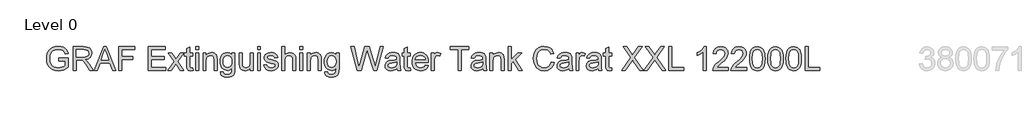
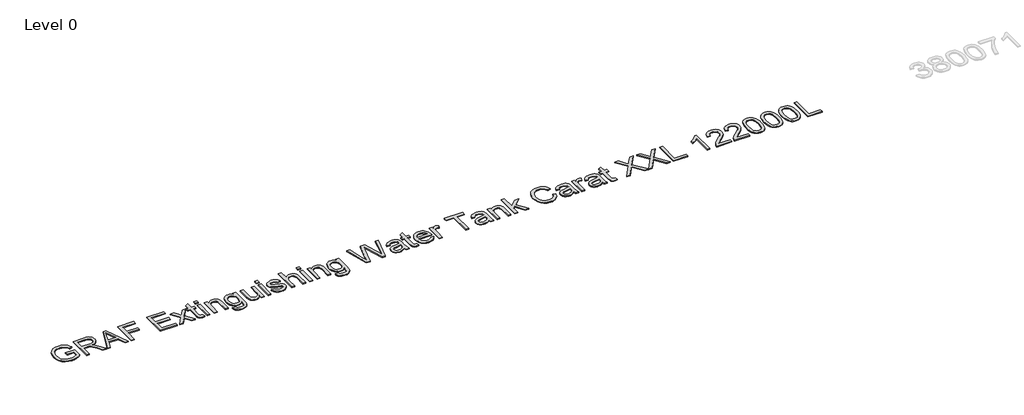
# One storey, part 18 of 37: 1 proxy.
"""IFC4 building model written with IfcOpenShell, lengths in millimetres."""

from ifc_helpers import new_model, si_unit, origin, origin_with_axes, place, context, project, spatial, polyline, outline, extrude, element, save

model = new_model("IFC4")

# Units and contexts
model_context = context("Model", 3, world=origin())
ifc_project = project(units=[si_unit("LENGTHUNIT", "METRE", prefix="MILLI")], contexts=[model_context])

# Site, building, storey
site = spatial("IfcSite", under=ifc_project)
building = spatial("IfcBuilding", under=site)
storey = spatial("IfcBuildingStorey", under=building, Name="Level 0", Elevation=0.0)

# Proxy
placement = place(None, origin())
element("IfcBuildingElementProxy", 1, Name="300mm Arial", ObjectType="300mm Arial", at=placement, inside=storey, context=model_context, shape_type="SweptSolid", body=[
    extrude(outline(polyline([(16759.0059613, -41583.2545597), (16759.0059613, -41545.5834434), (16881.4370893, -41545.5834434), (16881.4370893, -41658.2289103), (16851.6846329, -41678.9222726), (16820.9940775, -41693.7663111), (16789.4389993, -41702.7058436), (16757.0929749, -41705.6856877), (16714.8325307, -41700.949207), (16676.6371825, -41686.739765), (16644.9073605, -41663.5540022), (16622.0434945, -41631.8885595), (16608.2203285, -41593.9047435), (16603.6126065, -41551.7638609), (16608.2019344, -41509.3194757), (16621.9699181, -41469.8365406), (16644.3463404, -41436.717964), (16674.7609844, -41413.3666543), (16711.8067013, -41399.5158972), (16754.0763425, -41394.8989782), (16785.1071888, -41397.5753197), (16813.0110382, -41405.6043443), (16836.5095006, -41418.4066377), (16854.3241862, -41435.4027859), (16867.5035587, -41457.4113262), (16877.0960817, -41485.2507962), (16842.3680214, -41495.0364573), (16834.6149083, -41475.1800266), (16825.1879322, -41460.1980323), (16812.7167326, -41448.9040551), (16795.830949, -41440.1116754), (16775.6986068, -41434.4554897), (16753.4877313, -41432.5700945), (16727.4876713, -41434.6026425), (16705.2584018, -41440.7002866), (16686.8826961, -41450.0996716), (16672.4433278, -41462.0374423), (16653.0559467, -41491.0633317), (16644.2267788, -41519.50061), (16641.2837228, -41550.2187566), (16644.824587, -41586.2436009), (16655.4471796, -41615.8856927), (16672.8296039, -41638.9334997), (16696.6499631, -41655.1754898), (16724.5262213, -41664.804801), (16754.0763425, -41668.0145714), (16780.168373, -41665.5957473), (16805.6166101, -41658.3392749), (16827.7171209, -41648.3420817), (16843.765973, -41637.701095), (16843.765973, -41583.2545597), (16759.0059613, -41583.2545597)])), origin_with_axes(), (0.0, 0.0, 1.0), 10.0),
    extrude(outline(polyline([(16942.6526533, -41700.9767982), (16942.6526533, -41399.6078677), (17072.5149976, -41399.6078677), (17107.4178018, -41401.6404158), (17132.8108566, -41407.7380598), (17151.3705032, -41418.9952489), (17165.7730833, -41436.5064318), (17175.0161185, -41458.2206666), (17178.0971302, -41482.087011), (17172.9927675, -41511.7750881), (17157.6796794, -41536.3863935), (17146.0799003, -41546.4157764), (17131.6980135, -41554.4310054), (17094.5879173, -41564.4190016), (17115.9986494, -41580.532233), (17146.532855, -41619.3069952), (17196.7855355, -41700.9767982), (17153.0075781, -41700.9767982), (17113.7913574, -41638.5104354), (17085.4644438, -41597.1604991), (17065.5620278, -41577.6259652), (17047.6461747, -41570.4522663), (17025.7939842, -41569.1278911), (16980.3237696, -41569.1278911), (16980.3237696, -41700.9767982), (16942.6526533, -41700.9767982)]), holes=[polyline([(16980.3237696, -41531.4567748), (17064.6423229, -41531.4567748), (17088.8581552, -41530.1232026), (17107.6477281, -41526.1224859), (17121.7927908, -41519.1879103), (17132.0750926, -41509.0527613), (17138.3382835, -41496.7930938), (17140.4260139, -41483.4849626), (17136.4436913, -41465.109257), (17124.4967235, -41450.3020067), (17103.941317, -41440.5347397), (17074.1336783, -41437.278984), (16980.3237696, -41437.278984), (16980.3237696, -41531.4567748)])]), origin_with_axes(), (0.0, 0.0, 1.0), 10.0),
    extrude(outline(polyline([(17208.9256414, -41700.9767982), (17329.2230538, -41399.6078677), (17361.3023638, -41399.6078677), (17481.5997762, -41700.9767982), (17441.7949443, -41700.9767982), (17407.2876132, -41606.7990074), (17283.164228, -41606.7990074), (17248.7304732, -41700.9767982), (17208.9256414, -41700.9767982)]), holes=[polyline([(17296.996591, -41569.1278911), (17393.5288265, -41569.1278911), (17366.3791353, -41495.0364573), (17345.2627088, -41437.278984), (17326.500727, -41488.5617342), (17296.996591, -41569.1278911)])]), origin_with_axes(), (0.0, 0.0, 1.0), 10.0),
    extrude(outline(polyline([(17521.8460665, -41700.9767982), (17521.8460665, -41399.6078677), (17724.3283166, -41399.6078677), (17724.3283166, -41437.278984), (17559.5171828, -41437.278984), (17559.5171828, -41526.7478853), (17700.7838689, -41526.7478853), (17700.7838689, -41564.4190016), (17559.5171828, -41564.4190016), (17559.5171828, -41700.9767982), (17521.8460665, -41700.9767982)])), origin_with_axes(), (0.0, 0.0, 1.0), 10.0),
    extrude(outline(polyline([(17893.84834, -41700.9767982), (17893.84834, -41399.6078677), (18110.4572587, -41399.6078677), (18110.4572587, -41437.278984), (17931.5194563, -41437.278984), (17931.5194563, -41526.7478853), (18101.0394797, -41526.7478853), (18101.0394797, -41564.4190016), (17931.5194563, -41564.4190016), (17931.5194563, -41663.3056819), (18115.1661483, -41663.3056819), (18115.1661483, -41700.9767982), (17893.84834, -41700.9767982)])), origin_with_axes(), (0.0, 0.0, 1.0), 10.0),
    extrude(outline(polyline([(18143.4194855, -41700.9767982), (18223.9120661, -41589.7292828), (18148.1283751, -41479.6589899), (18193.4514369, -41479.6589899), (18230.0189072, -41532.6339972), (18247.0886318, -41557.6499729), (18261.877488, -41537.1957339), (18303.5217298, -41479.6589899), (18348.8447916, -41479.6589899), (18269.2351279, -41589.7292828), (18345.9017357, -41700.9767982), (18300.5786739, -41700.9767982), (18254.4462717, -41634.0958515), (18245.9849858, -41621.8821692), (18188.7425473, -41700.9767982), (18143.4194855, -41700.9767982)])), origin_with_axes(), (0.0, 0.0, 1.0), 10.0),
    extrude(outline(polyline([(18458.9150846, -41669.5596758), (18463.6239741, -41702.0804442), (18435.4442133, -41705.6856877), (18417.3628132, -41704.1221892), (18403.8799381, -41699.4316938), (18394.3517944, -41692.2028126), (18388.1345887, -41683.0241568), (18384.7132861, -41667.2604133), (18383.572852, -41640.276269), (18383.572852, -41517.3301062), (18355.3195147, -41517.3301062), (18355.3195147, -41479.6589899), (18383.572852, -41479.6589899), (18383.572852, -41425.8746422), (18421.2439683, -41403.7281461), (18421.2439683, -41479.6589899), (18458.9150846, -41479.6589899), (18458.9150846, -41517.3301062), (18421.2439683, -41517.3301062), (18421.2439683, -41639.172623), (18423.230531, -41658.5967923), (18429.668466, -41665.4761856), (18442.5075476, -41668.0145714), (18458.9150846, -41669.5596758)])), origin_with_axes(), (0.0, 0.0, 1.0), 10.0),
    extrude(outline(polyline([(18496.5862009, -41437.278984), (18496.5862009, -41399.6078677), (18534.2573172, -41399.6078677), (18534.2573172, -41437.278984), (18496.5862009, -41437.278984)])), origin_with_axes(), (0.0, 0.0, 1.0), 10.0),
    extrude(outline(polyline([(18496.5862009, -41700.9767982), (18496.5862009, -41479.6589899), (18534.2573172, -41479.6589899), (18534.2573172, -41700.9767982), (18496.5862009, -41700.9767982)])), origin_with_axes(), (0.0, 0.0, 1.0), 10.0),
    extrude(outline(polyline([(18590.7639916, -41700.9767982), (18590.7639916, -41479.6589899), (18628.435108, -41479.6589899), (18628.435108, -41510.5610775), (18641.5225099, -41494.981275), (18657.2402682, -41483.8528446), (18675.5883827, -41477.1757864), (18696.5668535, -41474.9501003), (18715.1356972, -41476.7435251), (18732.1410424, -41482.1237992), (18746.3228933, -41490.4195382), (18756.4212541, -41500.9593574), (18767.7152313, -41528.6608716), (18769.7017941, -41565.0811892), (18769.7017941, -41700.9767982), (18732.0306778, -41700.9767982), (18732.0306778, -41570.1579607), (18727.6896703, -41536.8278519), (18721.6839967, -41526.9042351), (18712.3489911, -41519.2063044), (18700.3836292, -41514.2674886), (18686.4868868, -41512.6212166), (18664.4231641, -41516.3184307), (18645.6151971, -41527.4100729), (18638.0989081, -41536.4645685), (18632.7301302, -41548.8391991), (18628.435108, -41583.5488653), (18628.435108, -41700.9767982), (18590.7639916, -41700.9767982)])), origin_with_axes(), (0.0, 0.0, 1.0), 10.0),
    extrude(outline(polyline([(18812.0817999, -41719.8123563), (18849.7529163, -41724.5212459), (18853.9099828, -41736.2934697), (18861.9665985, -41744.3868736), (18877.8039184, -41750.6776557), (18898.5340688, -41752.7745831), (18920.6437767, -41750.4017442), (18937.0881019, -41743.2832276), (18948.4924438, -41731.8788858), (18955.4822017, -41716.6485712), (18958.0573756, -41672.7234609), (18945.5217966, -41685.084296), (18931.5330838, -41693.9134639), (18916.091237, -41699.2109646), (18899.1962564, -41700.9767982), (18878.5419816, -41698.9212575), (18860.3571148, -41692.7546356), (18844.6416558, -41682.4769323), (18831.3956047, -41668.0881478), (18820.8856759, -41650.8252852), (18813.378584, -41631.9253477), (18808.8743288, -41611.3883353), (18807.3729104, -41589.214248), (18810.067646, -41558.7996041), (18818.1518529, -41530.8313754), (18831.3404224, -41507.1305779), (18849.3482461, -41489.5182274), (18871.5591215, -41478.5921321), (18897.3568464, -41474.9501003), (18914.9737955, -41477.0102395), (18930.9628667, -41483.190657), (18945.3240601, -41493.4913529), (18958.0573756, -41507.9123271), (18958.0573756, -41479.6589899), (18995.7284919, -41479.6589899), (18995.7284919, -41670.7368982), (18993.153318, -41714.8551464), (18985.4277961, -41743.908627), (18972.1196649, -41763.1764465), (18952.7966631, -41777.9377116), (18927.881855, -41787.3187024), (18897.7983048, -41790.4456994), (18862.7483477, -41786.0403125), (18835.148001, -41772.8241518), (18824.7530354, -41762.9028343), (18817.44368, -41750.7604292), (18813.2199349, -41736.3969365), (18812.0817999, -41719.8123563)]), holes=[polyline([(18845.0440267, -41586.6390741), (18849.0631375, -41621.1923905), (18861.1204699, -41644.9483703), (18879.2478552, -41658.716354), (18901.4771248, -41663.3056819), (18923.5408474, -41658.7439451), (18941.7602032, -41645.0587349), (18953.9830825, -41621.6062577), (18958.0573756, -41587.7427201), (18953.8635209, -41555.0839959), (18941.2819567, -41531.5671394), (18922.7958864, -41517.3576973), (18900.8885136, -41512.6212166), (18879.3766139, -41517.2841209), (18861.3411991, -41531.2728338), (18849.1183198, -41554.4402024), (18845.0440267, -41586.6390741)])]), origin_with_axes(), (0.0, 0.0, 1.0), 10.0),
    extrude(outline(polyline([(19193.5018525, -41700.9767982), (19193.5018525, -41662.9377999), (19179.8718246, -41681.6400008), (19163.9977165, -41694.9987158), (19145.8795283, -41703.0139447), (19125.5172598, -41705.6856877), (19107.1691453, -41703.8094895), (19090.0902237, -41698.180895), (19075.76122, -41689.7196091), (19065.6628592, -41679.3453369), (19054.4424584, -41651.6070344), (19052.2351664, -41616.5846685), (19052.2351664, -41479.6589899), (19089.9062827, -41479.6589899), (19089.9062827, -41598.8527563), (19092.1871511, -41637.2596366), (19097.6777899, -41650.0711271), (19107.0863719, -41659.8108029), (19119.7874978, -41665.9636293), (19135.1557681, -41668.0145714), (19151.4069552, -41665.917644), (19166.6096787, -41659.6268619), (19179.1452577, -41649.7216392), (19187.3950114, -41636.78139), (19191.9751423, -41619.0586749), (19193.5018525, -41594.8060544), (19193.5018525, -41479.6589899), (19231.1729689, -41479.6589899), (19231.1729689, -41700.9767982), (19193.5018525, -41700.9767982)])), origin_with_axes(), (0.0, 0.0, 1.0), 10.0),
    extrude(outline(polyline([(19282.9707538, -41437.278984), (19282.9707538, -41399.6078677), (19320.6418701, -41399.6078677), (19320.6418701, -41437.278984), (19282.9707538, -41437.278984)])), origin_with_axes(), (0.0, 0.0, 1.0), 10.0),
    extrude(outline(polyline([(19282.9707538, -41700.9767982), (19282.9707538, -41479.6589899), (19320.6418701, -41479.6589899), (19320.6418701, -41700.9767982), (19282.9707538, -41700.9767982)])), origin_with_axes(), (0.0, 0.0, 1.0), 10.0),
    extrude(outline(polyline([(19363.0218759, -41635.0523446), (19400.6929922, -41630.3434551), (19406.6342865, -41646.4566865), (19418.1305988, -41658.3024867), (19435.2555057, -41665.5865502), (19458.0825835, -41668.0145714), (19480.6337498, -41665.7888853), (19496.4894638, -41659.1118271), (19505.8704547, -41649.4365307), (19508.9974516, -41638.2161298), (19505.8520606, -41628.6144097), (19496.4158874, -41621.293558), (19457.6411251, -41610.5514038), (19400.9137214, -41592.1205158), (19386.5571266, -41582.8590866), (19376.1552632, -41570.5994191), (19369.8368899, -41556.1232626), (19367.7307655, -41540.2123663), (19369.4230226, -41525.6166481), (19374.4997942, -41512.1429701), (19382.5012276, -41500.324761), (19392.9674703, -41490.6954497), (19416.9165882, -41479.5486253), (19449.326992, -41474.9501003), (19473.846327, -41476.7987074), (19495.1650886, -41482.3445284), (19512.3083896, -41491.0449376), (19524.3013426, -41502.357309), (19532.2475937, -41517.118574), (19537.2507888, -41536.1656643), (19499.5796725, -41540.8745539), (19494.8247977, -41529.0195566), (19485.4162157, -41520.0892211), (19471.261956, -41514.4882178), (19452.270048, -41512.6212166), (19430.6385866, -41514.4054443), (19416.2176124, -41519.7581274), (19408.1058144, -41527.4836493), (19405.4018818, -41536.3863935), (19409.8900421, -41547.349277), (19423.9431343, -41555.6634101), (19456.3903263, -41563.6832376), (19511.6829902, -41581.4151497), (19526.2879054, -41589.8948297), (19537.3611534, -41601.5015067), (19544.3417143, -41616.2719688), (19546.6685679, -41634.2430043), (19543.9370441, -41652.821045), (19535.7424727, -41670.2954398), (19522.3975533, -41685.2958281), (19504.2149857, -41696.4518496), (19482.2524306, -41703.3772282), (19457.5675487, -41705.6856877), (19419.5837327, -41701.2343156), (19391.8638243, -41687.8801992), (19373.35936, -41665.7704912), (19363.0218759, -41635.0523446)])), origin_with_axes(), (0.0, 0.0, 1.0), 10.0),
    extrude(outline(polyline([(19589.0485738, -41700.9767982), (19589.0485738, -41399.6078677), (19626.7196901, -41399.6078677), (19626.7196901, -41510.4139247), (19640.5566516, -41494.8985015), (19656.0950674, -41483.8160564), (19673.3349374, -41477.1665894), (19692.2762616, -41474.9501003), (19715.029763, -41477.3689245), (19734.5826911, -41484.6253968), (19749.9785526, -41496.1493003), (19760.2608543, -41511.3704179), (19766.0549957, -41532.2845093), (19767.9863762, -41560.8873344), (19767.9863762, -41700.9767982), (19730.3152599, -41700.9767982), (19730.3152599, -41564.7868836), (19727.3170216, -41541.2056477), (19718.3223069, -41525.0556281), (19703.8277563, -41515.7298195), (19684.3300105, -41512.6212166), (19668.4099172, -41514.718144), (19653.4647111, -41521.0089261), (19641.085482, -41530.8865577), (19632.8633194, -41543.7440334), (19628.2555974, -41560.8321521), (19626.7196901, -41583.4017125), (19626.7196901, -41700.9767982), (19589.0485738, -41700.9767982)])), origin_with_axes(), (0.0, 0.0, 1.0), 10.0),
    extrude(outline(polyline([(19819.7841611, -41437.278984), (19819.7841611, -41399.6078677), (19857.4552774, -41399.6078677), (19857.4552774, -41437.278984), (19819.7841611, -41437.278984)])), origin_with_axes(), (0.0, 0.0, 1.0), 10.0),
    extrude(outline(polyline([(19819.7841611, -41700.9767982), (19819.7841611, -41479.6589899), (19857.4552774, -41479.6589899), (19857.4552774, -41700.9767982), (19819.7841611, -41700.9767982)])), origin_with_axes(), (0.0, 0.0, 1.0), 10.0),
    extrude(outline(polyline([(19913.9619519, -41700.9767982), (19913.9619519, -41479.6589899), (19951.6330682, -41479.6589899), (19951.6330682, -41510.5610775), (19964.7204702, -41494.981275), (19980.4382284, -41483.8528446), (19998.7863429, -41477.1757864), (20019.7648137, -41474.9501003), (20038.3336574, -41476.7435251), (20055.3390026, -41482.1237992), (20069.5208536, -41490.4195382), (20079.6192143, -41500.9593574), (20090.9131916, -41528.6608716), (20092.8997544, -41565.0811892), (20092.8997544, -41700.9767982), (20055.228638, -41700.9767982), (20055.228638, -41570.1579607), (20050.8876305, -41536.8278519), (20044.8819569, -41526.9042351), (20035.5469513, -41519.2063044), (20023.5815894, -41514.2674886), (20009.684847, -41512.6212166), (19987.6211244, -41516.3184307), (19968.8131574, -41527.4100729), (19961.2968684, -41536.4645685), (19955.9280905, -41548.8391991), (19951.6330682, -41583.5488653), (19951.6330682, -41700.9767982), (19913.9619519, -41700.9767982)])), origin_with_axes(), (0.0, 0.0, 1.0), 10.0),
    extrude(outline(polyline([(20135.2797602, -41719.8123563), (20172.9508765, -41724.5212459), (20177.1079431, -41736.2934697), (20185.1645587, -41744.3868736), (20201.0018786, -41750.6776557), (20221.7320291, -41752.7745831), (20243.841737, -41750.4017442), (20260.2860622, -41743.2832276), (20271.690404, -41731.8788858), (20278.6801619, -41716.6485712), (20281.2553359, -41672.7234609), (20268.7197569, -41685.084296), (20254.731044, -41693.9134639), (20239.2891973, -41699.2109646), (20222.3942167, -41700.9767982), (20201.7399419, -41698.9212575), (20183.555075, -41692.7546356), (20167.839616, -41682.4769323), (20154.5935649, -41668.0881478), (20144.0836362, -41650.8252852), (20136.5765442, -41631.9253477), (20132.0722891, -41611.3883353), (20130.5708707, -41589.214248), (20133.2656063, -41558.7996041), (20141.3498131, -41530.8313754), (20154.5383826, -41507.1305779), (20172.5462063, -41489.5182274), (20194.7570818, -41478.5921321), (20220.5548067, -41474.9501003), (20238.1717557, -41477.0102395), (20254.1608269, -41483.190657), (20268.5220203, -41493.4913529), (20281.2553359, -41507.9123271), (20281.2553359, -41479.6589899), (20318.9264522, -41479.6589899), (20318.9264522, -41670.7368982), (20316.3512782, -41714.8551464), (20308.6257563, -41743.908627), (20295.3176252, -41763.1764465), (20275.9946234, -41777.9377116), (20251.0798152, -41787.3187024), (20220.9962651, -41790.4456994), (20185.946308, -41786.0403125), (20158.3459613, -41772.8241518), (20147.9509957, -41762.9028343), (20140.6416403, -41750.7604292), (20136.4178951, -41736.3969365), (20135.2797602, -41719.8123563)]), holes=[polyline([(20168.241987, -41586.6390741), (20172.2610978, -41621.1923905), (20184.3184302, -41644.9483703), (20202.4458155, -41658.716354), (20224.675085, -41663.3056819), (20246.7388077, -41658.7439451), (20264.9581635, -41645.0587349), (20277.1810428, -41621.6062577), (20281.2553359, -41587.7427201), (20277.0614811, -41555.0839959), (20264.4799169, -41531.5671394), (20245.9938466, -41517.3576973), (20224.0864738, -41512.6212166), (20202.5745742, -41517.2841209), (20184.5391594, -41531.2728338), (20172.3162801, -41554.4402024), (20168.241987, -41586.6390741)])]), origin_with_axes(), (0.0, 0.0, 1.0), 10.0),
    extrude(outline(polyline([(20551.7957551, -41700.9767982), (20469.6109174, -41399.6078677), (20508.4592561, -41399.6078677), (20556.1367627, -41597.6755339), (20570.8520425, -41658.8175215), (20586.5973919, -41604.7388682), (20646.3414279, -41399.6078677), (20702.3330676, -41399.6078677), (20745.743143, -41548.3057702), (20764.3395779, -41603.4880695), (20778.0431822, -41658.8175215), (20792.3170036, -41599.4413675), (20840.4359686, -41399.6078677), (20879.2843072, -41399.6078677), (20797.0258931, -41700.9767982), (20756.7796029, -41700.9767982), (20684.527579, -41468.4753772), (20674.4476123, -41436.0281853), (20663.1168469, -41475.0972531), (20597.2659697, -41700.9767982), (20551.7957551, -41700.9767982)])), origin_with_axes(), (0.0, 0.0, 1.0), 10.0),
    extrude(outline(polyline([(21053.5132202, -41672.7234609), (21035.5145935, -41688.1561106), (21016.982538, -41698.2544714), (20997.4939893, -41703.8278836), (20976.6258832, -41705.6856877), (20945.1443814, -41701.2159215), (20921.9218305, -41687.8066228), (20907.6020238, -41667.4443543), (20902.8287549, -41642.115679), (20904.6313767, -41626.4990883), (20910.039242, -41612.3172373), (20918.3809663, -41600.1771315), (20928.9851648, -41590.685776), (20955.3623038, -41578.324941), (20987.9566486, -41572.6595583), (21026.4738935, -41566.6998699), (21053.292491, -41559.710112), (21053.5132202, -41551.3224025), (21050.9196521, -41534.5101954), (21043.1389479, -41523.5105237), (21025.7381295, -41515.3435434), (21001.494706, -41512.6212166), (20979.0539043, -41514.4330355), (20963.3821313, -41519.868492), (20952.6951594, -41529.9208675), (20945.2087608, -41545.5834434), (20907.5376445, -41540.8745539), (20914.0767469, -41520.2731621), (20923.8348169, -41504.0863544), (20937.7223622, -41491.7071252), (20956.6498908, -41482.5284694), (20979.7988654, -41476.8446926), (21006.3507484, -41474.9501003), (21031.8173795, -41476.6239634), (21052.004904, -41481.6455527), (21067.2260215, -41489.1963306), (21077.7934318, -41498.4577598), (21084.8015838, -41509.9080869), (21089.3449265, -41524.0255585), (21091.1843365, -41556.9877853), (21091.1843365, -41603.8559515), (21093.0973228, -41669.3021584), (21100.6021155, -41700.9767982), (21062.9309992, -41700.9767982), (21053.5132202, -41672.7234609)]), holes=[polyline([(21053.5132202, -41597.3812283), (20992.7391146, -41608.932723), (20960.3287108, -41615.0395641), (20945.6502192, -41624.972378), (20940.4998712, -41639.4669286), (20943.3049715, -41650.6689353), (20951.7202721, -41659.8475911), (20965.5618322, -41665.9728263), (20984.6457107, -41668.0145714), (21004.8792204, -41665.7612942), (21022.7582854, -41659.0014625), (21037.252836, -41649.0410575), (21047.3328026, -41637.1860602), (21051.8025689, -41624.972378), (21053.292491, -41608.0498062), (21053.5132202, -41597.3812283)])]), origin_with_axes(), (0.0, 0.0, 1.0), 10.0),
    extrude(outline(polyline([(21223.0332435, -41669.5596758), (21227.7421331, -41702.0804442), (21199.5623722, -41705.6856877), (21181.4809722, -41704.1221892), (21167.9980971, -41699.4316938), (21158.4699534, -41692.2028126), (21152.2527477, -41683.0241568), (21148.8314451, -41667.2604133), (21147.6910109, -41640.276269), (21147.6910109, -41517.3301062), (21119.4376737, -41517.3301062), (21119.4376737, -41479.6589899), (21147.6910109, -41479.6589899), (21147.6910109, -41425.8746422), (21185.3621272, -41403.7281461), (21185.3621272, -41479.6589899), (21223.0332435, -41479.6589899), (21223.0332435, -41517.3301062), (21185.3621272, -41517.3301062), (21185.3621272, -41639.172623), (21187.34869, -41658.5967923), (21193.7866249, -41665.4761856), (21206.6257066, -41668.0145714), (21223.0332435, -41669.5596758)])), origin_with_axes(), (0.0, 0.0, 1.0), 10.0),
    extrude(outline(polyline([(21415.6562562, -41635.0523446), (21452.5916085, -41639.7612342), (21439.2834774, -41667.5915071), (21418.0474892, -41688.3952339), (21389.3618906, -41701.3630743), (21353.7049282, -41705.6856877), (21330.330626, -41703.8209859), (21309.5039065, -41698.2268803), (21291.2247699, -41688.9033709), (21275.493216, -41675.8504579), (21262.8426739, -41659.4314246), (21253.8065724, -41640.0095545), (21248.3849115, -41617.5848477), (21246.5776912, -41592.157304), (21248.4033056, -41565.8675369), (21253.8801488, -41542.6955698), (21263.0082208, -41522.6414025), (21275.7875216, -41505.7050351), (21291.4776887, -41492.2497512), (21309.3383596, -41482.638834), (21329.3695342, -41476.8722838), (21351.5712127, -41474.9501003), (21373.0578204, -41476.8676852), (21392.4888876, -41482.6204399), (21409.8644141, -41492.2083644), (21425.1843999, -41505.6314587), (21437.6900885, -41522.5310379), (21446.6227232, -41542.548417), (21451.982304, -41565.6835959), (21453.7688309, -41591.9365748), (21453.5481017, -41602.0901179), (21284.2488075, -41602.0901179), (21290.7695159, -41630.2882728), (21305.9170571, -41651.0184232), (21327.7784446, -41663.7655344), (21354.4406922, -41668.0145714), (21374.490261, -41666.0464027), (21391.3760445, -41660.1418967), (21405.098043, -41649.9331713), (21415.6562562, -41635.0523446)]), holes=[polyline([(21284.2488075, -41564.4190016), (21416.0977146, -41564.4190016), (21411.002549, -41544.5165856), (21401.0145528, -41530.2795524), (21379.0519977, -41517.0358006), (21351.4240599, -41512.6212166), (21326.0310051, -41516.1436868), (21305.0341403, -41526.7110971), (21290.4384221, -41543.1830134), (21284.2488075, -41564.4190016)])]), origin_with_axes(), (0.0, 0.0, 1.0), 10.0),
    extrude(outline(polyline([(21491.4399472, -41700.9767982), (21491.4399472, -41479.6589899), (21524.402174, -41479.6589899), (21524.402174, -41512.4004875), (21536.579068, -41493.4177765), (21547.7994689, -41482.2341638), (21559.0566579, -41476.7711162), (21571.3439166, -41474.9501003), (21590.1058983, -41477.8563681), (21609.1621857, -41486.5751714), (21596.5806214, -41520.3467385), (21583.3368696, -41514.5525971), (21570.0931178, -41512.6212166), (21558.8451258, -41514.4790207), (21548.7927503, -41520.052433), (21540.6717552, -41528.918389), (21535.2179046, -41540.6538247), (21530.6377738, -41561.6966748), (21529.1110635, -41584.6525113), (21529.1110635, -41700.9767982), (21491.4399472, -41700.9767982)])), origin_with_axes(), (0.0, 0.0, 1.0), 10.0),
    extrude(outline(polyline([(21830.479994, -41700.9767982), (21830.479994, -41437.278984), (21731.5933137, -41437.278984), (21731.5933137, -41399.6078677), (21967.0377906, -41399.6078677), (21967.0377906, -41437.278984), (21868.1511103, -41437.278984), (21868.1511103, -41700.9767982), (21830.479994, -41700.9767982)])), origin_with_axes(), (0.0, 0.0, 1.0), 10.0),
    extrude(outline(polyline([(22145.975593, -41672.7234609), (22127.9769664, -41688.1561106), (22109.4449109, -41698.2544714), (22089.9563622, -41703.8278836), (22069.088256, -41705.6856877), (22037.6067543, -41701.2159215), (22014.3842034, -41687.8066228), (22000.0643967, -41667.4443543), (21995.2911278, -41642.115679), (21997.0937496, -41626.4990883), (22002.5016149, -41612.3172373), (22010.8433392, -41600.1771315), (22021.4475377, -41590.685776), (22047.8246767, -41578.324941), (22080.4190215, -41572.6595583), (22118.9362664, -41566.6998699), (22145.7548638, -41559.710112), (22145.975593, -41551.3224025), (22143.382025, -41534.5101954), (22135.6013208, -41523.5105237), (22118.2005024, -41515.3435434), (22093.9570789, -41512.6212166), (22071.5162772, -41514.4330355), (22055.8445042, -41519.868492), (22045.1575323, -41529.9208675), (22037.6711337, -41545.5834434), (22000.0000174, -41540.8745539), (22006.5391198, -41520.2731621), (22016.2971897, -41504.0863544), (22030.1847351, -41491.7071252), (22049.1122637, -41482.5284694), (22072.2612383, -41476.8446926), (22098.8131213, -41474.9501003), (22124.2797524, -41476.6239634), (22144.4672769, -41481.6455527), (22159.6883944, -41489.1963306), (22170.2558047, -41498.4577598), (22177.2639567, -41509.9080869), (22181.8072994, -41524.0255585), (22183.6467093, -41556.9877853), (22183.6467093, -41603.8559515), (22185.5596957, -41669.3021584), (22193.0644884, -41700.9767982), (22155.3933721, -41700.9767982), (22145.975593, -41672.7234609)]), holes=[polyline([(22145.975593, -41597.3812283), (22085.2014874, -41608.932723), (22052.7910837, -41615.0395641), (22038.1125921, -41624.972378), (22032.9622441, -41639.4669286), (22035.7673443, -41650.6689353), (22044.182645, -41659.8475911), (22058.024205, -41665.9728263), (22077.1080835, -41668.0145714), (22097.3415933, -41665.7612942), (22115.2206582, -41659.0014625), (22129.7152088, -41649.0410575), (22139.7951755, -41637.1860602), (22144.2649418, -41624.972378), (22145.7548638, -41608.0498062), (22145.975593, -41597.3812283)])]), origin_with_axes(), (0.0, 0.0, 1.0), 10.0),
    extrude(outline(polyline([(22235.4444943, -41700.9767982), (22235.4444943, -41479.6589899), (22273.1156106, -41479.6589899), (22273.1156106, -41510.5610775), (22286.2030125, -41494.981275), (22301.9207708, -41483.8528446), (22320.2688853, -41477.1757864), (22341.2473561, -41474.9501003), (22359.8161998, -41476.7435251), (22376.821545, -41482.1237992), (22391.0033959, -41490.4195382), (22401.1017567, -41500.9593574), (22412.3957339, -41528.6608716), (22414.3822967, -41565.0811892), (22414.3822967, -41700.9767982), (22376.7111804, -41700.9767982), (22376.7111804, -41570.1579607), (22372.3701729, -41536.8278519), (22366.3644993, -41526.9042351), (22357.0294937, -41519.2063044), (22345.0641318, -41514.2674886), (22331.1673894, -41512.6212166), (22309.1036667, -41516.3184307), (22290.2956997, -41527.4100729), (22282.7794107, -41536.4645685), (22277.4106329, -41548.8391991), (22273.1156106, -41583.5488653), (22273.1156106, -41700.9767982), (22235.4444943, -41700.9767982)])), origin_with_axes(), (0.0, 0.0, 1.0), 10.0),
    extrude(outline(polyline([(22466.1800816, -41700.9767982), (22466.1800816, -41399.6078677), (22503.8511979, -41399.6078677), (22503.8511979, -41561.549522), (22588.316904, -41479.6589899), (22640.4089946, -41479.6589899), (22554.9132189, -41562.5795916), (22645.1178841, -41700.9767982), (22601.1191975, -41700.9767982), (22527.9106804, -41588.7727896), (22503.8511979, -41612.0965081), (22503.8511979, -41700.9767982), (22466.1800816, -41700.9767982)])), origin_with_axes(), (0.0, 0.0, 1.0), 10.0),
    extrude(outline(polyline([(23012.4112681, -41593.8495612), (23050.0823844, -41603.5616459), (23042.6281755, -41626.9888312), (23032.6999601, -41647.4591649), (23020.2977383, -41664.9726472), (23005.4215102, -41679.5292779), (22988.4069679, -41690.9727072), (22969.5898038, -41699.1465853), (22948.970018, -41704.0509121), (22926.5476104, -41705.6856877), (22882.8524264, -41700.7376749), (22848.1519572, -41685.8936364), (22821.554089, -41661.668607), (22802.1667078, -41628.5776215), (22790.3301046, -41589.6741005), (22786.3845702, -41548.0114646), (22790.8451394, -41504.0679603), (22804.226847, -41466.1209325), (22825.8307172, -41435.3751947), (22854.9577741, -41413.0355606), (22889.5018935, -41399.4331238), (22927.3569508, -41394.8989782), (22968.6609018, -41400.766696), (22986.629638, -41408.1013433), (23002.809548, -41418.3698495), (23016.9339174, -41431.3009016), (23028.7360316, -41446.6231867), (23045.3734948, -41484.4414558), (23007.7023785, -41493.4177765), (22994.6425677, -41465.9461885), (22976.8002909, -41447.1014333), (22953.954819, -41436.2029292), (22925.8854228, -41432.5700945), (22893.5302013, -41436.5984023), (22866.9507272, -41448.6833259), (22846.7815968, -41467.5556722), (22833.6574066, -41491.9462485), (22826.4561166, -41519.5190041), (22824.0556865, -41547.9378882), (22826.897575, -41582.7395249), (22835.4232402, -41612.8322721), (22849.954579, -41637.0664986), (22870.8134881, -41654.292573), (22895.8202668, -41664.5840718), (22922.7952141, -41668.0145714), (22954.2399276, -41663.3424701), (22980.4423227, -41649.3261661), (23000.225177, -41626.1128122), (23012.4112681, -41593.8495612)])), origin_with_axes(), (0.0, 0.0, 1.0), 10.0),
    extrude(outline(polyline([(23238.4379659, -41672.7234609), (23220.4393393, -41688.1561106), (23201.9072838, -41698.2544714), (23182.4187351, -41703.8278836), (23161.5506289, -41705.6856877), (23130.0691272, -41701.2159215), (23106.8465762, -41687.8066228), (23092.5267696, -41667.4443543), (23087.7535007, -41642.115679), (23089.5561225, -41626.4990883), (23094.9639878, -41612.3172373), (23103.305712, -41600.1771315), (23113.9099105, -41590.685776), (23140.2870496, -41578.324941), (23172.8813944, -41572.6595583), (23211.3986393, -41566.6998699), (23238.2172367, -41559.710112), (23238.4379659, -41551.3224025), (23235.8443978, -41534.5101954), (23228.0636936, -41523.5105237), (23210.6628753, -41515.3435434), (23186.4194518, -41512.6212166), (23163.9786501, -41514.4330355), (23148.3068771, -41519.868492), (23137.6199051, -41529.9208675), (23130.1335065, -41545.5834434), (23092.4623902, -41540.8745539), (23099.0014927, -41520.2731621), (23108.7595626, -41504.0863544), (23122.6471079, -41491.7071252), (23141.5746366, -41482.5284694), (23164.7236111, -41476.8446926), (23191.2754941, -41474.9501003), (23216.7421252, -41476.6239634), (23236.9296497, -41481.6455527), (23252.1507673, -41489.1963306), (23262.7181776, -41498.4577598), (23269.7263296, -41509.9080869), (23274.2696722, -41524.0255585), (23276.1090822, -41556.9877853), (23276.1090822, -41603.8559515), (23278.0220686, -41669.3021584), (23285.5268613, -41700.9767982), (23247.855745, -41700.9767982), (23238.4379659, -41672.7234609)]), holes=[polyline([(23238.4379659, -41597.3812283), (23177.6638603, -41608.932723), (23145.2534565, -41615.0395641), (23130.5749649, -41624.972378), (23125.424617, -41639.4669286), (23128.2297172, -41650.6689353), (23136.6450178, -41659.8475911), (23150.4865779, -41665.9728263), (23169.5704564, -41668.0145714), (23189.8039662, -41665.7612942), (23207.6830311, -41659.0014625), (23222.1775817, -41649.0410575), (23232.2575484, -41637.1860602), (23236.7273146, -41624.972378), (23238.2172367, -41608.0498062), (23238.4379659, -41597.3812283)])]), origin_with_axes(), (0.0, 0.0, 1.0), 10.0),
    extrude(outline(polyline([(23327.9068671, -41700.9767982), (23327.9068671, -41479.6589899), (23360.8690939, -41479.6589899), (23360.8690939, -41512.4004875), (23373.0459879, -41493.4177765), (23384.2663888, -41482.2341638), (23395.5235779, -41476.7711162), (23407.8108365, -41474.9501003), (23426.5728182, -41477.8563681), (23445.6291056, -41486.5751714), (23433.0475414, -41520.3467385), (23419.8037895, -41514.5525971), (23406.5600377, -41512.6212166), (23395.3120457, -41514.4790207), (23385.2596702, -41520.052433), (23377.1386751, -41528.918389), (23371.6848246, -41540.6538247), (23367.1046937, -41561.6966748), (23365.5779834, -41584.6525113), (23365.5779834, -41700.9767982), (23327.9068671, -41700.9767982)])), origin_with_axes(), (0.0, 0.0, 1.0), 10.0),
    extrude(outline(polyline([(23610.4402394, -41672.7234609), (23592.4416128, -41688.1561106), (23573.9095573, -41698.2544714), (23554.4210086, -41703.8278836), (23533.5529024, -41705.6856877), (23502.0714007, -41701.2159215), (23478.8488498, -41687.8066228), (23464.5290431, -41667.4443543), (23459.7557742, -41642.115679), (23461.558396, -41626.4990883), (23466.9662613, -41612.3172373), (23475.3079856, -41600.1771315), (23485.9121841, -41590.685776), (23512.2893231, -41578.324941), (23544.8836679, -41572.6595583), (23583.4009128, -41566.6998699), (23610.2195102, -41559.710112), (23610.4402394, -41551.3224025), (23607.8466714, -41534.5101954), (23600.0659672, -41523.5105237), (23582.6651488, -41515.3435434), (23558.4217253, -41512.6212166), (23535.9809236, -41514.4330355), (23520.3091506, -41519.868492), (23509.6221787, -41529.9208675), (23502.1357801, -41545.5834434), (23464.4646638, -41540.8745539), (23471.0037662, -41520.2731621), (23480.7618361, -41504.0863544), (23494.6493815, -41491.7071252), (23513.5769101, -41482.5284694), (23536.7258847, -41476.8446926), (23563.2777677, -41474.9501003), (23588.7443988, -41476.6239634), (23608.9319233, -41481.6455527), (23624.1530408, -41489.1963306), (23634.7204511, -41498.4577598), (23641.7286031, -41509.9080869), (23646.2719458, -41524.0255585), (23648.1113557, -41556.9877853), (23648.1113557, -41603.8559515), (23650.0243421, -41669.3021584), (23657.5291348, -41700.9767982), (23619.8580185, -41700.9767982), (23610.4402394, -41672.7234609)]), holes=[polyline([(23610.4402394, -41597.3812283), (23549.6661338, -41608.932723), (23517.2557301, -41615.0395641), (23502.5772385, -41624.972378), (23497.4268905, -41639.4669286), (23500.2319907, -41650.6689353), (23508.6472914, -41659.8475911), (23522.4888514, -41665.9728263), (23541.5727299, -41668.0145714), (23561.8062397, -41665.7612942), (23579.6853046, -41659.0014625), (23594.1798552, -41649.0410575), (23604.2598219, -41637.1860602), (23608.7295882, -41624.972378), (23610.2195102, -41608.0498062), (23610.4402394, -41597.3812283)])]), origin_with_axes(), (0.0, 0.0, 1.0), 10.0),
    extrude(outline(polyline([(23779.9602628, -41669.5596758), (23784.6691524, -41702.0804442), (23756.4893915, -41705.6856877), (23738.4079915, -41704.1221892), (23724.9251163, -41699.4316938), (23715.3969727, -41692.2028126), (23709.1797669, -41683.0241568), (23705.7584644, -41667.2604133), (23704.6180302, -41640.276269), (23704.6180302, -41517.3301062), (23676.364693, -41517.3301062), (23676.364693, -41479.6589899), (23704.6180302, -41479.6589899), (23704.6180302, -41425.8746422), (23742.2891465, -41403.7281461), (23742.2891465, -41479.6589899), (23779.9602628, -41479.6589899), (23779.9602628, -41517.3301062), (23742.2891465, -41517.3301062), (23742.2891465, -41639.172623), (23744.2757093, -41658.5967923), (23750.7136442, -41665.4761856), (23763.5527258, -41668.0145714), (23779.9602628, -41669.5596758)])), origin_with_axes(), (0.0, 0.0, 1.0), 10.0),
    extrude(outline(polyline([(23907.1002803, -41700.9767982), (24023.2774144, -41536.7542755), (23925.9358385, -41399.6078677), (23971.1117475, -41399.6078677), (24025.9261648, -41476.7895103), (24044.3938409, -41506.8822575), (24066.0253023, -41476.2744755), (24120.2511084, -41399.6078677), (24166.089205, -41399.6078677), (24068.747629, -41537.1957339), (24184.9247631, -41700.9767982), (24139.7488541, -41700.9767982), (24062.3464823, -41591.789422), (24046.2332509, -41569.1278911), (24028.5013388, -41593.996714), (23952.9383769, -41700.9767982), (23907.1002803, -41700.9767982)])), origin_with_axes(), (0.0, 0.0, 1.0), 10.0),
    extrude(outline(polyline([(24189.6336526, -41700.9767982), (24305.8107867, -41536.7542755), (24208.4692108, -41399.6078677), (24253.6451198, -41399.6078677), (24308.4595371, -41476.7895103), (24326.9272132, -41506.8822575), (24348.5586746, -41476.2744755), (24402.7844806, -41399.6078677), (24448.6225772, -41399.6078677), (24351.2810013, -41537.1957339), (24467.4581354, -41700.9767982), (24422.2822264, -41700.9767982), (24344.8798546, -41591.789422), (24328.7666232, -41569.1278911), (24311.0347111, -41593.996714), (24235.4717492, -41700.9767982), (24189.6336526, -41700.9767982)])), origin_with_axes(), (0.0, 0.0, 1.0), 10.0),
    extrude(outline(polyline([(24505.1292517, -41700.9767982), (24505.1292517, -41399.6078677), (24542.800368, -41399.6078677), (24542.800368, -41663.3056819), (24693.4848332, -41663.3056819), (24693.4848332, -41700.9767982), (24505.1292517, -41700.9767982)])), origin_with_axes(), (0.0, 0.0, 1.0), 10.0),
    extrude(outline(polyline([(24980.7270951, -41700.9767982), (24943.0559788, -41700.9767982), (24943.0559788, -41466.1209325), (24907.3714252, -41491.5415783), (24867.7137462, -41510.5610775), (24867.7137462, -41474.9501003), (24897.3006556, -41458.8552631), (24922.9328336, -41439.7070052), (24943.1387522, -41419.3447368), (24956.4468834, -41399.6078677), (24980.7270951, -41399.6078677), (24980.7270951, -41700.9767982)])), origin_with_axes(), (0.0, 0.0, 1.0), 10.0),
    extrude(outline(polyline([(25263.2604674, -41663.3056819), (25263.2604674, -41700.9767982), (25065.4871068, -41700.9767982), (25069.5338087, -41675.0043293), (25078.8228291, -41654.7064402), (25092.4160688, -41635.0155564), (25112.0793614, -41614.4049677), (25139.5785406, -41591.3479636), (25180.2295011, -41555.2403458), (25204.6200773, -41528.5872952), (25216.8153655, -41506.9558339), (25220.8804615, -41485.9129838), (25217.0452917, -41467.0498345), (25205.5397823, -41451.3688645), (25187.8538554, -41440.8014541), (25165.477433, -41437.278984), (25141.9789706, -41440.7186807), (25123.7228266, -41451.0377707), (25111.9414057, -41467.4269135), (25107.8671126, -41489.076769), (25070.1959963, -41484.3678794), (25079.3286668, -41447.9291678), (25087.8750254, -41433.3932305), (25099.0747329, -41421.3129054), (25112.6702719, -41411.8169514), (25128.404125, -41405.0341272), (25166.2867734, -41399.6078677), (25186.4765972, -41401.1161839), (25204.4453334, -41405.6411325), (25220.192982, -41413.1827134), (25233.7195432, -41423.7409266), (25244.5835583, -41436.534023), (25252.3435692, -41450.7802533), (25256.9995757, -41466.4796174), (25258.5515778, -41483.6321154), (25256.8777148, -41501.6491361), (25251.8561255, -41519.3534572), (25242.9441842, -41537.3612808), (25229.5992648, -41556.2888095), (25208.3264884, -41578.885961), (25175.6309761, -41607.9026534), (25132.2944771, -41644.1390299), (25115.2983289, -41663.3056819), (25263.2604674, -41663.3056819)])), origin_with_axes(), (0.0, 0.0, 1.0), 10.0),
    extrude(outline(polyline([(25493.9960547, -41663.3056819), (25493.9960547, -41700.9767982), (25296.2226941, -41700.9767982), (25300.2693961, -41675.0043293), (25309.5584165, -41654.7064402), (25323.1516562, -41635.0155564), (25342.8149488, -41614.4049677), (25370.314128, -41591.3479636), (25410.9650884, -41555.2403458), (25435.3556647, -41528.5872952), (25447.5509529, -41506.9558339), (25451.6160489, -41485.9129838), (25447.7808791, -41467.0498345), (25436.2753697, -41451.3688645), (25418.5894428, -41440.8014541), (25396.2130204, -41437.278984), (25372.714558, -41440.7186807), (25354.458414, -41451.0377707), (25342.6769931, -41467.4269135), (25338.6027, -41489.076769), (25300.9315837, -41484.3678794), (25310.0642542, -41447.9291678), (25318.6106128, -41433.3932305), (25329.8103203, -41421.3129054), (25343.4058593, -41411.8169514), (25359.1397124, -41405.0341272), (25397.0223608, -41399.6078677), (25417.2121846, -41401.1161839), (25435.1809208, -41405.6411325), (25450.9285694, -41413.1827134), (25464.4551305, -41423.7409266), (25475.3191457, -41436.534023), (25483.0791565, -41450.7802533), (25487.735163, -41466.4796174), (25489.2871652, -41483.6321154), (25487.6133021, -41501.6491361), (25482.5917129, -41519.3534572), (25473.6797716, -41537.3612808), (25460.3348522, -41556.2888095), (25439.0620758, -41578.885961), (25406.3665635, -41607.9026534), (25363.0300645, -41644.1390299), (25346.0339163, -41663.3056819), (25493.9960547, -41663.3056819)])), origin_with_axes(), (0.0, 0.0, 1.0), 10.0),
    extrude(outline(polyline([(25531.667171, -41552.7203541), (25534.4354831, -41504.4818275), (25542.7404191, -41466.0105679), (25556.4992057, -41436.717964), (25575.6290695, -41416.0154047), (25600.2679661, -41403.709752), (25630.5538514, -41399.6078677), (25653.7672052, -41402.0358889), (25674.552538, -41409.3199524), (25691.9349622, -41421.1749497), (25704.9395908, -41437.3157722), (25714.76204, -41457.6044643), (25722.5979265, -41481.9030701), (25727.7298804, -41512.7591724), (25729.4405317, -41552.7203541), (25726.6998108, -41600.6829692), (25718.4776482, -41639.0622584), (25704.801635, -41668.3824534), (25685.6993624, -41689.1677861), (25661.0052835, -41701.5562123), (25630.5538514, -41705.6856877), (25609.8053068, -41703.892263), (25591.4112071, -41698.5119888), (25575.3715521, -41689.5448652), (25561.6863419, -41676.9908921), (25548.5529546, -41654.2971715), (25539.1719637, -41626.0208417), (25533.5433692, -41592.1619025), (25531.667171, -41552.7203541)]), holes=[polyline([(25569.3382874, -41552.6467777), (25573.7528713, -41611.9033701), (25579.2711012, -41632.1713688), (25586.9966231, -41646.1991691), (25606.7150981, -41662.5607208), (25630.5538514, -41668.0145714), (25654.3926046, -41662.5423267), (25674.1110796, -41646.1255927), (25681.8366015, -41632.0747997), (25687.3548314, -41611.8113996), (25691.7694153, -41552.6467777), (25687.5019842, -41494.7237576), (25682.1676953, -41474.5224375), (25674.6996908, -41460.1612441), (25655.018004, -41442.9995491), (25630.112393, -41437.278984), (25606.5311571, -41442.3189674), (25587.5852343, -41457.4389174), (25579.602195, -41473.0739022), (25573.9000241, -41494.1535405), (25569.3382874, -41552.6467777)])]), origin_with_axes(), (0.0, 0.0, 1.0), 10.0),
    extrude(outline(polyline([(25762.4027584, -41552.7203541), (25765.1710704, -41504.4818275), (25773.4760065, -41466.0105679), (25787.2347931, -41436.717964), (25806.3646568, -41416.0154047), (25831.0035535, -41403.709752), (25861.2894387, -41399.6078677), (25884.5027926, -41402.0358889), (25905.2881253, -41409.3199524), (25922.6705496, -41421.1749497), (25935.6751782, -41437.3157722), (25945.4976274, -41457.6044643), (25953.3335139, -41481.9030701), (25958.4654678, -41512.7591724), (25960.176119, -41552.7203541), (25957.4353982, -41600.6829692), (25949.2132356, -41639.0622584), (25935.5372224, -41668.3824534), (25916.4349498, -41689.1677861), (25891.7408709, -41701.5562123), (25861.2894387, -41705.6856877), (25840.5408942, -41703.892263), (25822.1467944, -41698.5119888), (25806.1071394, -41689.5448652), (25792.4219292, -41676.9908921), (25779.288542, -41654.2971715), (25769.9075511, -41626.0208417), (25764.2789566, -41592.1619025), (25762.4027584, -41552.7203541)]), holes=[polyline([(25800.0738747, -41552.6467777), (25804.4884587, -41611.9033701), (25810.0066886, -41632.1713688), (25817.7322105, -41646.1991691), (25837.4506854, -41662.5607208), (25861.2894387, -41668.0145714), (25885.128192, -41662.5423267), (25904.846667, -41646.1255927), (25912.5721889, -41632.0747997), (25918.0904188, -41611.8113996), (25922.5050027, -41552.6467777), (25918.2375716, -41494.7237576), (25912.9032826, -41474.5224375), (25905.4352781, -41460.1612441), (25885.7535914, -41442.9995491), (25860.8479803, -41437.278984), (25837.2667444, -41442.3189674), (25818.3208217, -41457.4389174), (25810.3377824, -41473.0739022), (25804.6356115, -41494.1535405), (25800.0738747, -41552.6467777)])]), origin_with_axes(), (0.0, 0.0, 1.0), 10.0),
    extrude(outline(polyline([(25993.1383458, -41552.7203541), (25995.9066578, -41504.4818275), (26004.2115939, -41466.0105679), (26017.9703805, -41436.717964), (26037.1002442, -41416.0154047), (26061.7391408, -41403.709752), (26092.0250261, -41399.6078677), (26115.23838, -41402.0358889), (26136.0237127, -41409.3199524), (26153.406137, -41421.1749497), (26166.4107655, -41437.3157722), (26176.2332148, -41457.6044643), (26184.0691013, -41481.9030701), (26189.2010551, -41512.7591724), (26190.9117064, -41552.7203541), (26188.1709855, -41600.6829692), (26179.9488229, -41639.0622584), (26166.2728098, -41668.3824534), (26147.1705372, -41689.1677861), (26122.4764583, -41701.5562123), (26092.0250261, -41705.6856877), (26071.2764816, -41703.892263), (26052.8823818, -41698.5119888), (26036.8427268, -41689.5448652), (26023.1575166, -41676.9908921), (26010.0241294, -41654.2971715), (26000.6431385, -41626.0208417), (25995.014544, -41592.1619025), (25993.1383458, -41552.7203541)]), holes=[polyline([(26030.8094621, -41552.6467777), (26035.224046, -41611.9033701), (26040.742276, -41632.1713688), (26048.4677979, -41646.1991691), (26068.1862728, -41662.5607208), (26092.0250261, -41668.0145714), (26115.8637794, -41662.5423267), (26135.5822543, -41646.1255927), (26143.3077762, -41632.0747997), (26148.8260062, -41611.8113996), (26153.2405901, -41552.6467777), (26148.973159, -41494.7237576), (26143.63887, -41474.5224375), (26136.1708655, -41460.1612441), (26116.4891788, -41442.9995491), (26091.5835677, -41437.278984), (26068.0023318, -41442.3189674), (26049.0564091, -41457.4389174), (26041.0733698, -41473.0739022), (26035.3711988, -41494.1535405), (26030.8094621, -41552.6467777)])]), origin_with_axes(), (0.0, 0.0, 1.0), 10.0),
    extrude(outline(polyline([(26238.0006018, -41700.9767982), (26238.0006018, -41399.6078677), (26275.6717181, -41399.6078677), (26275.6717181, -41663.3056819), (26426.3561833, -41663.3056819), (26426.3561833, -41700.9767982), (26238.0006018, -41700.9767982)])), origin_with_axes(), (0.0, 0.0, 1.0), 10.0),
])

save(model, "model.ifc")
